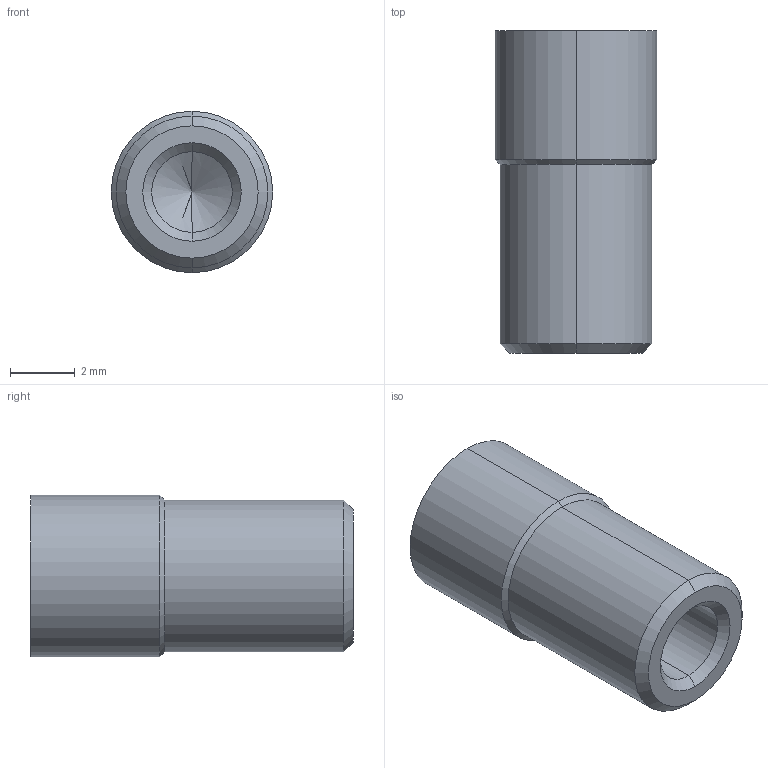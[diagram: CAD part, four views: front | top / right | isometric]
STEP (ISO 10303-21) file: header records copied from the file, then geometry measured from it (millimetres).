
FILE_DESCRIPTION (( 'STEP AP203' ), '1' );
FILE_NAME ('IR-5_PVC.STEP', '2016-04-08T15:25:32', ( 'Balzi' ), ( '' ), 'SwSTEP 2.0', 'SolidWorks 2015', '' );
FILE_SCHEMA (( 'CONFIG_CONTROL_DESIGN' ));
Length unit declared in the file: millimetre
Products named in the file (1): IR-5_PVC
Bounding box: 5 x 10 x 5 mm (x, y, z)
Volume: 144 mm3; surface area: 255.3 mm2
Topology: 1 solids, 1 shells, 211 faces, 587 edges, 387 vertices
Faces by surface type: plane 191, cone 8, bspline 6, cylinder 6
Entity records: 8284 total; most frequent: CARTESIAN_POINT 2830, ORIENTED_EDGE 1170, DIRECTION 1001, EDGE_CURVE 585, VECTOR 557, LINE 557, VERTEX_POINT 387, AXIS2_PLACEMENT_3D 222
